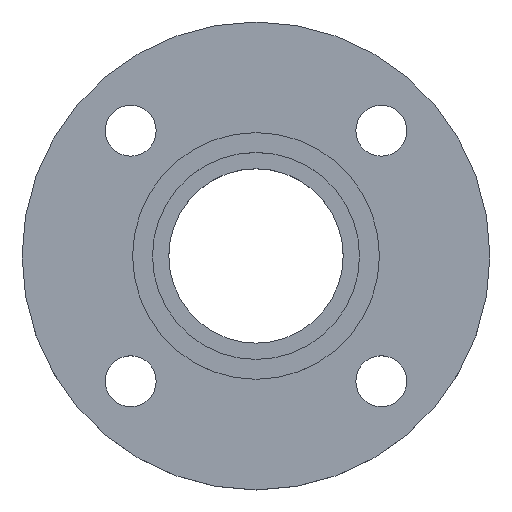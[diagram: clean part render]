
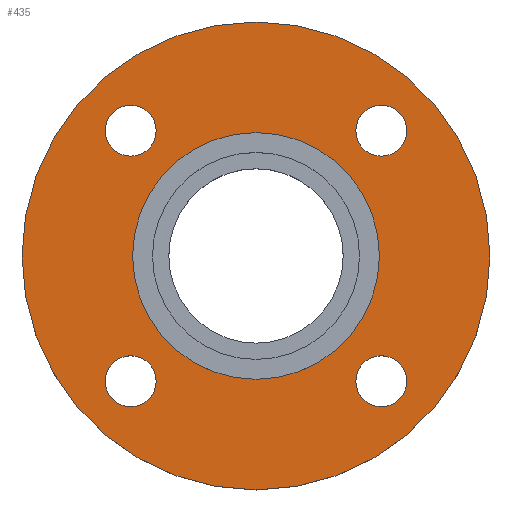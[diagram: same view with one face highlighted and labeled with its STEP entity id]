
A CAD part, top view. The second image highlights one B-rep face of the part: STEP entity #435.
In plain terms, the highlighted planar face has unit normal (0, 0, 1).
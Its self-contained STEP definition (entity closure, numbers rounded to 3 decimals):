
#5 = CIRCLE ( 'NONE', #16, 9. ) ;
#16 = AXIS2_PLACEMENT_3D ( 'NONE', #404, #358, #360 ) ;
#22 = DIRECTION ( 'NONE',  ( 1., 0., 0. ) ) ;
#23 = DIRECTION ( 'NONE',  ( 0., 0., -1. ) ) ;
#24 = CARTESIAN_POINT ( 'NONE',  ( -44.194, 44.194, -4.5 ) ) ;
#29 = CARTESIAN_POINT ( 'NONE',  ( 43.5, 0., -4.5 ) ) ;
#31 = CARTESIAN_POINT ( 'NONE',  ( -35.194, 44.194, -4.5 ) ) ;
#36 = CARTESIAN_POINT ( 'NONE',  ( -82.5, 0., -4.5 ) ) ;
#39 = CARTESIAN_POINT ( 'NONE',  ( -35.194, -44.194, -4.5 ) ) ;
#41 = CARTESIAN_POINT ( 'NONE',  ( 53.194, -44.194, -4.5 ) ) ;
#43 = CARTESIAN_POINT ( 'NONE',  ( -53.194, 44.194, -4.5 ) ) ;
#45 = CIRCLE ( 'NONE', #47, 43.5 ) ;
#47 = AXIS2_PLACEMENT_3D ( 'NONE', #307, #308, #302 ) ;
#48 = CARTESIAN_POINT ( 'NONE',  ( -43.5, 0., -4.5 ) ) ;
#51 = EDGE_CURVE ( 'NONE', #466, #647, #5, .T. ) ;
#61 = DIRECTION ( 'NONE',  ( -1., 0., 0. ) ) ;
#62 = CIRCLE ( 'NONE', #63, 9. ) ;
#63 = AXIS2_PLACEMENT_3D ( 'NONE', #296, #292, #291 ) ;
#65 = DIRECTION ( 'NONE',  ( 0., 0., -1. ) ) ;
#66 = CARTESIAN_POINT ( 'NONE',  ( 0., 0., -4.5 ) ) ;
#74 = CARTESIAN_POINT ( 'NONE',  ( 82.5, 0., -4.5 ) ) ;
#75 = CARTESIAN_POINT ( 'NONE',  ( 53.194, 44.194, -4.5 ) ) ;
#78 = DIRECTION ( 'NONE',  ( 1., 0., 0. ) ) ;
#79 = DIRECTION ( 'NONE',  ( 0., 0., -1. ) ) ;
#80 = CARTESIAN_POINT ( 'NONE',  ( 44.194, -44.194, -4.5 ) ) ;
#91 = DIRECTION ( 'NONE',  ( -1., 0., 0. ) ) ;
#92 = DIRECTION ( 'NONE',  ( 0., 0., -1. ) ) ;
#93 = CARTESIAN_POINT ( 'NONE',  ( 0., 0., -4.5 ) ) ;
#95 = EDGE_CURVE ( 'NONE', #479, #556, #45, .T. ) ;
#122 = EDGE_CURVE ( 'NONE', #363, #506, #62, .T. ) ;
#128 = DIRECTION ( 'NONE',  ( 1., 0., 0. ) ) ;
#129 = DIRECTION ( 'NONE',  ( 0., 0., 1. ) ) ;
#130 = CARTESIAN_POINT ( 'NONE',  ( 43.5, 0., -4.5 ) ) ;
#132 = PLANE ( 'NONE',  #224 ) ;
#136 = FACE_OUTER_BOUND ( 'NONE', #409, .T. ) ;
#138 = FACE_BOUND ( 'NONE', #407, .T. ) ;
#139 = FACE_BOUND ( 'NONE', #415, .T. ) ;
#140 = FACE_BOUND ( 'NONE', #403, .T. ) ;
#141 = CARTESIAN_POINT ( 'NONE',  ( -53.194, -44.194, -4.5 ) ) ;
#142 = FACE_BOUND ( 'NONE', #392, .T. ) ;
#144 = FACE_BOUND ( 'NONE', #315, .T. ) ;
#145 = DIRECTION ( 'NONE',  ( 1., 0., 0. ) ) ;
#147 = DIRECTION ( 'NONE',  ( 0., 0., -1. ) ) ;
#148 = CARTESIAN_POINT ( 'NONE',  ( -44.194, -44.194, -4.5 ) ) ;
#169 = CIRCLE ( 'NONE', #174, 9. ) ;
#173 = CARTESIAN_POINT ( 'NONE',  ( -44.194, -44.194, -4.5 ) ) ;
#174 = AXIS2_PLACEMENT_3D ( 'NONE', #204, #203, #202 ) ;
#202 = DIRECTION ( 'NONE',  ( 1., 0., 0. ) ) ;
#203 = DIRECTION ( 'NONE',  ( 0., 0., -1. ) ) ;
#204 = CARTESIAN_POINT ( 'NONE',  ( -44.194, 44.194, -4.5 ) ) ;
#206 = CARTESIAN_POINT ( 'NONE',  ( 35.194, -44.194, -4.5 ) ) ;
#211 = CIRCLE ( 'NONE', #215, 9. ) ;
#215 = AXIS2_PLACEMENT_3D ( 'NONE', #148, #147, #145 ) ;
#222 = CARTESIAN_POINT ( 'NONE',  ( 44.194, 44.194, -4.5 ) ) ;
#224 = AXIS2_PLACEMENT_3D ( 'NONE', #130, #129, #128 ) ;
#272 = CIRCLE ( 'NONE', #287, 43.5 ) ;
#287 = AXIS2_PLACEMENT_3D ( 'NONE', #93, #92, #91 ) ;
#291 = DIRECTION ( 'NONE',  ( 1., 0., 0. ) ) ;
#292 = DIRECTION ( 'NONE',  ( 0., 0., -1. ) ) ;
#296 = CARTESIAN_POINT ( 'NONE',  ( 44.194, -44.194, -4.5 ) ) ;
#300 = CIRCLE ( 'NONE', #399, 9. ) ;
#302 = DIRECTION ( 'NONE',  ( -1., 0., 0. ) ) ;
#303 = CIRCLE ( 'NONE', #304, 9. ) ;
#304 = AXIS2_PLACEMENT_3D ( 'NONE', #80, #79, #78 ) ;
#306 = CIRCLE ( 'NONE', #319, 82.5 ) ;
#307 = CARTESIAN_POINT ( 'NONE',  ( 0., 0., -4.5 ) ) ;
#308 = DIRECTION ( 'NONE',  ( 0., 0., -1. ) ) ;
#315 = EDGE_LOOP ( 'NONE', ( #544, #545 ) ) ;
#319 = AXIS2_PLACEMENT_3D ( 'NONE', #66, #65, #61 ) ;
#327 = DIRECTION ( 'NONE',  ( 1., 0., 0. ) ) ;
#358 = DIRECTION ( 'NONE',  ( 0., 0., -1. ) ) ;
#360 = DIRECTION ( 'NONE',  ( 1., 0., 0. ) ) ;
#363 = VERTEX_POINT ( 'NONE', #206 ) ;
#375 = EDGE_CURVE ( 'NONE', #497, #526, #169, .T. ) ;
#379 = DIRECTION ( 'NONE',  ( 0., 0., -1. ) ) ;
#392 = EDGE_LOOP ( 'NONE', ( #546, #550 ) ) ;
#393 = DIRECTION ( 'NONE',  ( 0., 0., -1. ) ) ;
#399 = AXIS2_PLACEMENT_3D ( 'NONE', #24, #23, #22 ) ;
#403 = EDGE_LOOP ( 'NONE', ( #551, #552 ) ) ;
#404 = CARTESIAN_POINT ( 'NONE',  ( 44.194, 44.194, -4.5 ) ) ;
#407 = EDGE_LOOP ( 'NONE', ( #561, #562 ) ) ;
#409 = EDGE_LOOP ( 'NONE', ( #566, #567 ) ) ;
#415 = EDGE_LOOP ( 'NONE', ( #557, #558 ) ) ;
#417 = DIRECTION ( 'NONE',  ( 1., 0., 0. ) ) ;
#434 = EDGE_CURVE ( 'NONE', #650, #511, #211, .T. ) ;
#435 = ADVANCED_FACE ( 'NONE', ( #144, #142, #140, #139, #138, #136 ), #132, .T. ) ;
#446 = EDGE_CURVE ( 'NONE', #556, #479, #272, .T. ) ;
#447 = CARTESIAN_POINT ( 'NONE',  ( 35.194, 44.194, -4.5 ) ) ;
#455 = EDGE_CURVE ( 'NONE', #506, #363, #303, .T. ) ;
#466 = VERTEX_POINT ( 'NONE', #75 ) ;
#467 = VERTEX_POINT ( 'NONE', #74 ) ;
#470 = EDGE_CURVE ( 'NONE', #467, #514, #306, .T. ) ;
#479 = VERTEX_POINT ( 'NONE', #48 ) ;
#481 = DIRECTION ( 'NONE',  ( 0., 0., -1. ) ) ;
#497 = VERTEX_POINT ( 'NONE', #43 ) ;
#500 = CIRCLE ( 'NONE', #594, 82.5 ) ;
#506 = VERTEX_POINT ( 'NONE', #41 ) ;
#511 = VERTEX_POINT ( 'NONE', #39 ) ;
#514 = VERTEX_POINT ( 'NONE', #36 ) ;
#526 = VERTEX_POINT ( 'NONE', #31 ) ;
#535 = CIRCLE ( 'NONE', #548, 9. ) ;
#544 = ORIENTED_EDGE ( 'NONE', *, *, #455, .T. ) ;
#545 = ORIENTED_EDGE ( 'NONE', *, *, #122, .T. ) ;
#546 = ORIENTED_EDGE ( 'NONE', *, *, #608, .T. ) ;
#548 = AXIS2_PLACEMENT_3D ( 'NONE', #222, #379, #417 ) ;
#550 = ORIENTED_EDGE ( 'NONE', *, *, #434, .T. ) ;
#551 = ORIENTED_EDGE ( 'NONE', *, *, #570, .T. ) ;
#552 = ORIENTED_EDGE ( 'NONE', *, *, #375, .T. ) ;
#556 = VERTEX_POINT ( 'NONE', #29 ) ;
#557 = ORIENTED_EDGE ( 'NONE', *, *, #51, .T. ) ;
#558 = ORIENTED_EDGE ( 'NONE', *, *, #598, .T. ) ;
#560 = AXIS2_PLACEMENT_3D ( 'NONE', #173, #481, #327 ) ;
#561 = ORIENTED_EDGE ( 'NONE', *, *, #95, .T. ) ;
#562 = ORIENTED_EDGE ( 'NONE', *, *, #446, .T. ) ;
#566 = ORIENTED_EDGE ( 'NONE', *, *, #470, .F. ) ;
#567 = ORIENTED_EDGE ( 'NONE', *, *, #651, .F. ) ;
#570 = EDGE_CURVE ( 'NONE', #526, #497, #300, .T. ) ;
#574 = DIRECTION ( 'NONE',  ( -1., 0., 0. ) ) ;
#578 = CIRCLE ( 'NONE', #560, 9. ) ;
#594 = AXIS2_PLACEMENT_3D ( 'NONE', #605, #393, #574 ) ;
#598 = EDGE_CURVE ( 'NONE', #647, #466, #535, .T. ) ;
#605 = CARTESIAN_POINT ( 'NONE',  ( 0., 0., -4.5 ) ) ;
#608 = EDGE_CURVE ( 'NONE', #511, #650, #578, .T. ) ;
#647 = VERTEX_POINT ( 'NONE', #447 ) ;
#650 = VERTEX_POINT ( 'NONE', #141 ) ;
#651 = EDGE_CURVE ( 'NONE', #514, #467, #500, .T. ) ;
